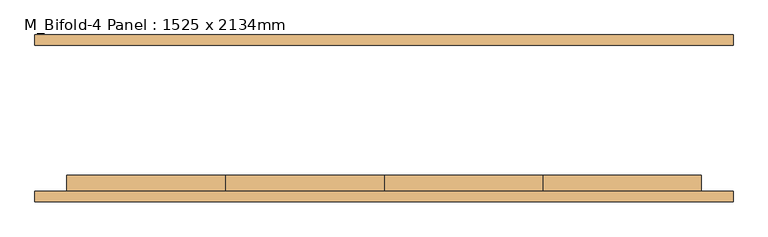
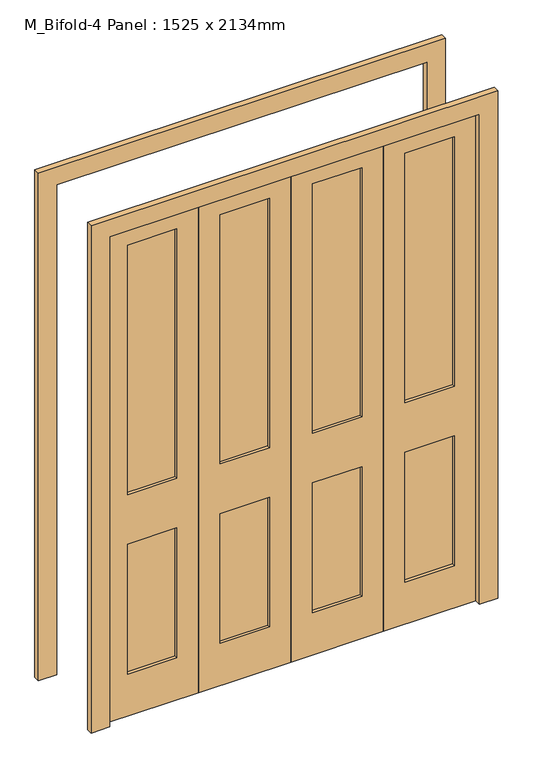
"""IFC4 building model written with IfcOpenShell, lengths in millimetres: door geometry, M_Bifold-4 Panel : 1525 x 2134mm."""

from ifc_helpers import new_model, si_unit, frame, origin, place, context, project, spatial, polyline, outline, extrude, source, transform, mapped, element, save


def m_bifold_4_panel_1525_x_2134mm_ac598c8b(model_context):
    return source(origin(), model_context, "Body", "SweptSolid", [
        extrude(outline(polyline([(470.15, -162.3), (470.15, -149.6), (673.6, -149.6), (673.6, -162.3), (470.15, -162.3)])), frame((0.0, 0.0, 965.2), z_axis=(0.0, 0.0, 1.0), x_axis=(1.0, 0.0, 0.0)), (0.0, 0.0, 1.0), 1086.25),
        extrude(outline(polyline([(470.15, -162.3), (470.15, -149.6), (673.6, -149.6), (673.6, -162.3), (470.15, -162.3)])), frame((0.0, 0.0, 184.15), z_axis=(0.0, 0.0, 1.0), x_axis=(1.0, 0.0, 0.0)), (0.0, 0.0, 1.0), 565.15),
        extrude(outline(polyline([(88.9, -162.3), (88.9, -149.6), (292.35, -149.6), (292.35, -162.3), (88.9, -162.3)])), frame((0.0, 0.0, 965.2), z_axis=(0.0, 0.0, 1.0), x_axis=(1.0, 0.0, 0.0)), (0.0, 0.0, 1.0), 1086.25),
        extrude(outline(polyline([(88.9, -162.3), (88.9, -149.6), (292.35, -149.6), (292.35, -162.3), (88.9, -162.3)])), frame((0.0, 0.0, 184.15), z_axis=(0.0, 0.0, 1.0), x_axis=(1.0, 0.0, 0.0)), (0.0, 0.0, 1.0), 565.15),
        extrude(outline(polyline([(-292.35, -162.3), (-292.35, -149.6), (-88.9, -149.6), (-88.9, -162.3), (-292.35, -162.3)])), frame((0.0, 0.0, 184.15), z_axis=(0.0, 0.0, 1.0), x_axis=(1.0, 0.0, 0.0)), (0.0, 0.0, 1.0), 565.15),
        extrude(outline(polyline([(-292.35, -162.3), (-292.35, -149.6), (-88.9, -149.6), (-88.9, -162.3), (-292.35, -162.3)])), frame((0.0, 0.0, 965.2), z_axis=(0.0, 0.0, 1.0), x_axis=(1.0, 0.0, 0.0)), (0.0, 0.0, 1.0), 1086.25),
        extrude(outline(polyline([(-673.6, -162.3), (-673.6, -149.6), (-470.15, -149.6), (-470.15, -162.3), (-673.6, -162.3)])), frame((0.0, 0.0, 965.2), z_axis=(0.0, 0.0, 1.0), x_axis=(1.0, 0.0, 0.0)), (0.0, 0.0, 1.0), 1086.25),
        extrude(outline(polyline([(-673.6, -162.3), (-673.6, -149.6), (-470.15, -149.6), (-470.15, -162.3), (-673.6, -162.3)])), frame((0.0, 0.0, 184.15), z_axis=(0.0, 0.0, 1.0), x_axis=(1.0, 0.0, 0.0)), (0.0, 0.0, 1.0), 565.15),
        extrude(outline(polyline([(0.0, 838.5), (2210.0, 838.5), (2210.0, -838.5), (0.0, -838.5), (0.0, -762.5), (2134.0, -762.5), (2134.0, 762.5), (0.0, 762.5), (0.0, 838.5)])), frame((0.0, 175.0, 0.0), z_axis=(0.0, 1.0, 0.0), x_axis=(0.0, 0.0, 1.0)), (0.0, 0.0, 1.0), 25.4),
        extrude(outline(polyline([(0.0, 838.5), (2210.0, 838.5), (2210.0, -838.5), (0.0, -838.5), (0.0, -762.5), (2134.0, -762.5), (2134.0, 762.5), (0.0, 762.5), (0.0, 838.5)])), frame((0.0, -200.4, 0.0), z_axis=(0.0, 1.0, 0.0), x_axis=(0.0, 0.0, 1.0)), (0.0, 0.0, 1.0), 25.4),
        extrude(outline(polyline([(0.0, -762.5), (0.0, -381.25), (2134.0, -381.25), (2134.0, -762.5), (0.0, -762.5)]), holes=[polyline([(2051.45, -673.6), (2051.45, -470.15), (965.2, -470.15), (965.2, -673.6), (2051.45, -673.6)]), polyline([(749.3, -673.6), (749.3, -470.15), (184.15, -470.15), (184.15, -673.6), (749.3, -673.6)])]), frame((0.0, -175.0, 0.0), z_axis=(0.0, 1.0, 0.0), x_axis=(0.0, 0.0, 1.0)), (0.0, 0.0, 1.0), 38.1),
        extrude(outline(polyline([(0.0, -381.25), (0.0, 0.0), (2134.0, 0.0), (2134.0, -381.25), (0.0, -381.25)]), holes=[polyline([(2051.45, -292.35), (2051.45, -88.9), (965.2, -88.9), (965.2, -292.35), (2051.45, -292.35)]), polyline([(749.3, -292.35), (749.3, -88.9), (184.15, -88.9), (184.15, -292.35), (749.3, -292.35)])]), frame((0.0, -175.0, 0.0), z_axis=(0.0, 1.0, 0.0), x_axis=(0.0, 0.0, 1.0)), (0.0, 0.0, 1.0), 38.1),
        extrude(outline(polyline([(0.0, 0.0), (0.0, 381.25), (2134.0, 381.25), (2134.0, 0.0), (0.0, 0.0)]), holes=[polyline([(2051.45, 88.9), (2051.45, 292.35), (965.2, 292.35), (965.2, 88.9), (2051.45, 88.9)]), polyline([(749.3, 88.9), (749.3, 292.35), (184.15, 292.35), (184.15, 88.9), (749.3, 88.9)])]), frame((0.0, -175.0, 0.0), z_axis=(0.0, 1.0, 0.0), x_axis=(0.0, 0.0, 1.0)), (0.0, 0.0, 1.0), 38.1),
        extrude(outline(polyline([(0.0, 381.25), (0.0, 762.5), (2134.0, 762.5), (2134.0, 381.25), (0.0, 381.25)]), holes=[polyline([(2051.45, 470.15), (2051.45, 673.6), (965.2, 673.6), (965.2, 470.15), (2051.45, 470.15)]), polyline([(749.3, 470.15), (749.3, 673.6), (184.15, 673.6), (184.15, 470.15), (749.3, 470.15)])]), frame((0.0, -175.0, 0.0), z_axis=(0.0, 1.0, 0.0), x_axis=(0.0, 0.0, 1.0)), (0.0, 0.0, 1.0), 38.1),
    ])


if __name__ == "__main__":
    model = new_model("IFC4")
    model_context = context("Model", 3, world=origin())
    ifc_project = project(units=[si_unit("LENGTHUNIT", "METRE", prefix="MILLI")], contexts=[model_context])
    site = spatial("IfcSite", under=ifc_project)
    building = spatial("IfcBuilding", under=site)
    placement = place(None, origin())
    m_bifold_4_panel_1525_x_2134mm_shape = m_bifold_4_panel_1525_x_2134mm_ac598c8b(model_context)
    element("IfcDoor", 1, ObjectType="M_Bifold-4 Panel : 1525 x 2134mm", at=placement, inside=building, context=model_context, shape_type="MappedRepresentation", body=[
        mapped(m_bifold_4_panel_1525_x_2134mm_shape, transform((0.0, 0.0, 0.0), x_axis=(1.0, 0.0, 0.0), y_axis=(0.0, 1.0, 0.0), z_axis=(0.0, 0.0, 1.0))),
    ])
    save(model, "model.ifc")
